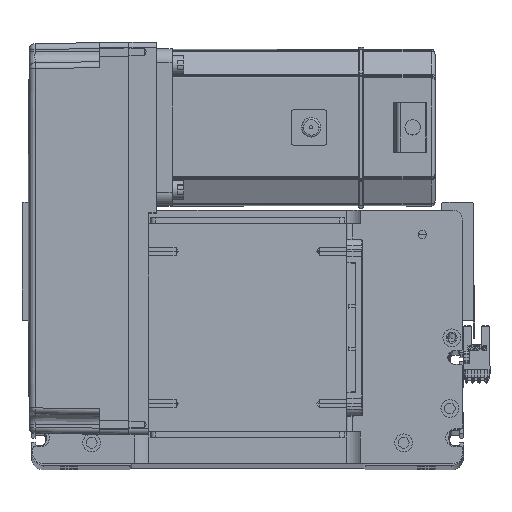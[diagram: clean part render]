
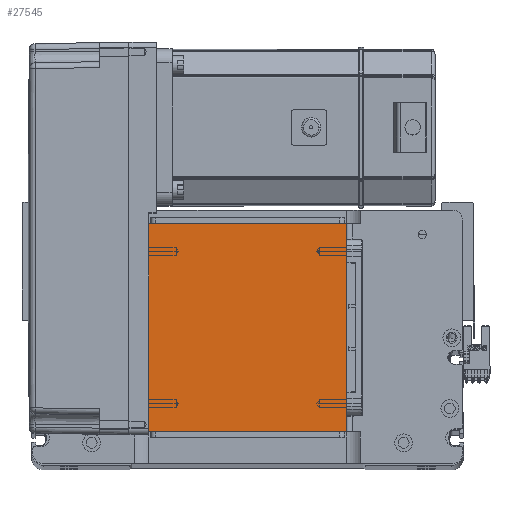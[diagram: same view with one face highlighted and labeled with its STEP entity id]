
A CAD part, top view. The second image highlights one B-rep face of the part: STEP entity #27545.
In plain terms, the highlighted planar face has unit normal (0, 0, 1).
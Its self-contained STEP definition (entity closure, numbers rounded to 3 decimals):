
#655 = FACE_OUTER_BOUND ( 'NONE', #42598, .T. ) ;
#667 = VERTEX_POINT ( 'NONE', #9168 ) ;
#4252 = AXIS2_PLACEMENT_3D ( 'NONE', #31333, #11170, #6367 ) ;
#5293 = LINE ( 'NONE', #12986, #35924 ) ;
#6036 = ORIENTED_EDGE ( 'NONE', *, *, #10497, .T. ) ;
#6367 = DIRECTION ( 'NONE',  ( 1., 0., 0. ) ) ;
#7753 = EDGE_CURVE ( 'NONE', #13237, #19242, #22305, .T. ) ;
#8354 = CARTESIAN_POINT ( 'NONE',  ( -50.5, 122., 115. ) ) ;
#9168 = CARTESIAN_POINT ( 'NONE',  ( 50.5, 122., 115. ) ) ;
#10497 = EDGE_CURVE ( 'NONE', #667, #13237, #42641, .T. ) ;
#11170 = DIRECTION ( 'NONE',  ( 0., 0., 1. ) ) ;
#11543 = LINE ( 'NONE', #40263, #12163 ) ;
#12163 = VECTOR ( 'NONE', #15894, 1000. ) ;
#12986 = CARTESIAN_POINT ( 'NONE',  ( 50.5, 122., 115. ) ) ;
#13237 = VERTEX_POINT ( 'NONE', #8354 ) ;
#13794 = DIRECTION ( 'NONE',  ( -1., 0., 0. ) ) ;
#15894 = DIRECTION ( 'NONE',  ( 1., 0., 0. ) ) ;
#19242 = VERTEX_POINT ( 'NONE', #51722 ) ;
#19339 = EDGE_CURVE ( 'NONE', #19242, #50068, #11543, .T. ) ;
#20368 = VECTOR ( 'NONE', #13794, 1000. ) ;
#21742 = DIRECTION ( 'NONE',  ( 0., 1., 0. ) ) ;
#22305 = LINE ( 'NONE', #44224, #39493 ) ;
#25204 = ORIENTED_EDGE ( 'NONE', *, *, #43120, .T. ) ;
#27545 = ADVANCED_FACE ( 'NONE', ( #655 ), #35599, .T. ) ;
#31333 = CARTESIAN_POINT ( 'NONE',  ( 0., 0., 115. ) ) ;
#35599 = PLANE ( 'NONE',  #4252 ) ;
#35924 = VECTOR ( 'NONE', #21742, 1000. ) ;
#36227 = DIRECTION ( 'NONE',  ( 0., -1., 0. ) ) ;
#39493 = VECTOR ( 'NONE', #36227, 1000. ) ;
#40263 = CARTESIAN_POINT ( 'NONE',  ( -50.5, 16., 115. ) ) ;
#42598 = EDGE_LOOP ( 'NONE', ( #45126, #45040, #25204, #6036 ) ) ;
#42641 = LINE ( 'NONE', #46228, #20368 ) ;
#43120 = EDGE_CURVE ( 'NONE', #50068, #667, #5293, .T. ) ;
#43328 = CARTESIAN_POINT ( 'NONE',  ( 50.5, 16., 115. ) ) ;
#44224 = CARTESIAN_POINT ( 'NONE',  ( -50.5, 122., 115. ) ) ;
#45040 = ORIENTED_EDGE ( 'NONE', *, *, #19339, .T. ) ;
#45126 = ORIENTED_EDGE ( 'NONE', *, *, #7753, .T. ) ;
#46228 = CARTESIAN_POINT ( 'NONE',  ( -50.5, 122., 115. ) ) ;
#50068 = VERTEX_POINT ( 'NONE', #43328 ) ;
#51722 = CARTESIAN_POINT ( 'NONE',  ( -50.5, 16., 115. ) ) ;
